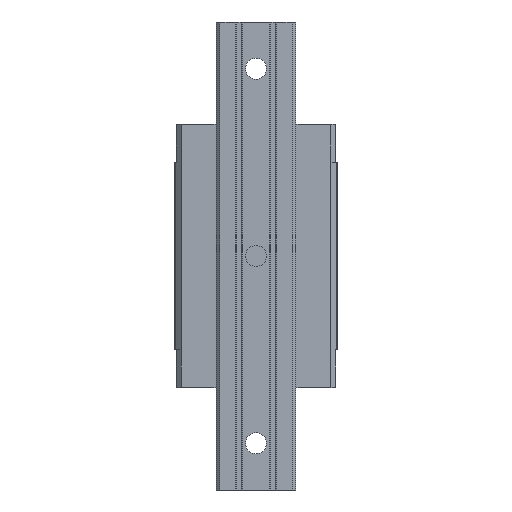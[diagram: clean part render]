
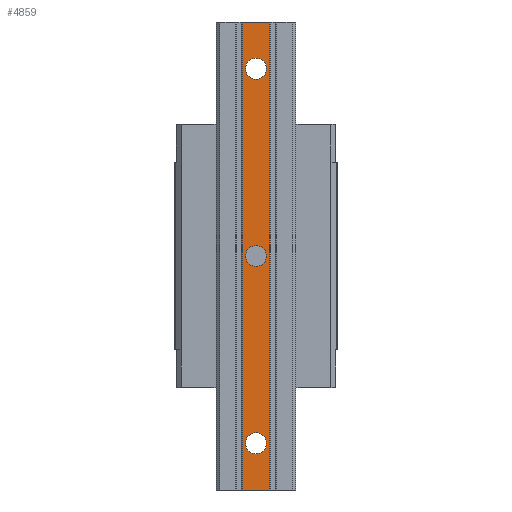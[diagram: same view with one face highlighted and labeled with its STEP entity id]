
A CAD part, front view. The second image highlights one B-rep face of the part: STEP entity #4859.
In plain terms, the highlighted planar face has unit normal (0, -1, 0).
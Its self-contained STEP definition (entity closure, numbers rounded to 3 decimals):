
#3869=DIRECTION('',(-1.,0.,0.));
#3870=VECTOR('',#3869,11.7);
#3871=CARTESIAN_POINT('',(5.85,-29.,-100.));
#3872=LINE('',#3871,#3870);
#3873=DIRECTION('',(0.,0.,-1.));
#3874=VECTOR('',#3873,200.);
#3875=CARTESIAN_POINT('',(5.85,-29.,100.));
#3876=LINE('',#3875,#3874);
#3877=CARTESIAN_POINT('',(0.,-29.,0.));
#3878=DIRECTION('',(0.,-1.,0.));
#3879=DIRECTION('',(1.,0.,0.));
#3880=AXIS2_PLACEMENT_3D('',#3877,#3878,#3879);
#3882=CARTESIAN_POINT('',(0.,-29.,0.));
#3883=DIRECTION('',(0.,-1.,0.));
#3884=DIRECTION('',(-1.,0.,0.));
#3885=AXIS2_PLACEMENT_3D('',#3882,#3883,#3884);
#3887=CARTESIAN_POINT('',(0.,-29.,80.));
#3888=DIRECTION('',(0.,-1.,0.));
#3889=DIRECTION('',(1.,0.,0.));
#3890=AXIS2_PLACEMENT_3D('',#3887,#3888,#3889);
#3892=CARTESIAN_POINT('',(0.,-29.,80.));
#3893=DIRECTION('',(0.,-1.,0.));
#3894=DIRECTION('',(-1.,0.,0.));
#3895=AXIS2_PLACEMENT_3D('',#3892,#3893,#3894);
#3897=CARTESIAN_POINT('',(0.,-29.,-80.));
#3898=DIRECTION('',(0.,-1.,0.));
#3899=DIRECTION('',(1.,0.,0.));
#3900=AXIS2_PLACEMENT_3D('',#3897,#3898,#3899);
#3902=CARTESIAN_POINT('',(0.,-29.,-80.));
#3903=DIRECTION('',(0.,-1.,0.));
#3904=DIRECTION('',(-1.,0.,0.));
#3905=AXIS2_PLACEMENT_3D('',#3902,#3903,#3904);
#3907=DIRECTION('',(0.,0.,-1.));
#3908=VECTOR('',#3907,200.);
#3909=CARTESIAN_POINT('',(-5.85,-29.,100.));
#3910=LINE('',#3909,#3908);
#4117=DIRECTION('',(-1.,0.,0.));
#4118=VECTOR('',#4117,11.7);
#4119=CARTESIAN_POINT('',(5.85,-29.,100.));
#4120=LINE('',#4119,#4118);
#4363=CARTESIAN_POINT('',(-5.85,-29.,-100.));
#4364=VERTEX_POINT('',#4363);
#4365=CARTESIAN_POINT('',(5.85,-29.,-100.));
#4366=VERTEX_POINT('',#4365);
#4427=CARTESIAN_POINT('',(5.85,-29.,100.));
#4428=VERTEX_POINT('',#4427);
#4429=CARTESIAN_POINT('',(-5.85,-29.,100.));
#4430=VERTEX_POINT('',#4429);
#4431=CARTESIAN_POINT('',(4.5,-29.,0.));
#4432=CARTESIAN_POINT('',(-4.5,-29.,0.));
#4433=VERTEX_POINT('',#4431);
#4434=VERTEX_POINT('',#4432);
#4435=CARTESIAN_POINT('',(4.5,-29.,80.));
#4436=CARTESIAN_POINT('',(-4.5,-29.,80.));
#4437=VERTEX_POINT('',#4435);
#4438=VERTEX_POINT('',#4436);
#4439=CARTESIAN_POINT('',(4.5,-29.,-80.));
#4440=CARTESIAN_POINT('',(-4.5,-29.,-80.));
#4441=VERTEX_POINT('',#4439);
#4442=VERTEX_POINT('',#4440);
#4828=CARTESIAN_POINT('',(-5.85,-29.,-100.));
#4829=DIRECTION('',(0.,-1.,0.));
#4830=DIRECTION('',(1.,0.,0.));
#4831=AXIS2_PLACEMENT_3D('',#4828,#4829,#4830);
#4832=PLANE('',#4831);
#4833=ORIENTED_EDGE('',*,*,#4568,.T.);
#4835=ORIENTED_EDGE('',*,*,#4834,.F.);
#4837=ORIENTED_EDGE('',*,*,#4836,.F.);
#4838=ORIENTED_EDGE('',*,*,#4820,.T.);
#4839=EDGE_LOOP('',(#4833,#4835,#4837,#4838));
#4840=FACE_OUTER_BOUND('',#4839,.F.);
#4842=ORIENTED_EDGE('',*,*,#4841,.T.);
#4844=ORIENTED_EDGE('',*,*,#4843,.T.);
#4845=EDGE_LOOP('',(#4842,#4844));
#4846=FACE_BOUND('',#4845,.F.);
#4848=ORIENTED_EDGE('',*,*,#4847,.T.);
#4850=ORIENTED_EDGE('',*,*,#4849,.T.);
#4851=EDGE_LOOP('',(#4848,#4850));
#4852=FACE_BOUND('',#4851,.F.);
#4854=ORIENTED_EDGE('',*,*,#4853,.T.);
#4856=ORIENTED_EDGE('',*,*,#4855,.T.);
#4857=EDGE_LOOP('',(#4854,#4856));
#4858=FACE_BOUND('',#4857,.F.);
#4859=ADVANCED_FACE('',(#4840,#4846,#4852,#4858),#4832,.T.);
#3881=CIRCLE('',#3880,4.5);
#3886=CIRCLE('',#3885,4.5);
#3891=CIRCLE('',#3890,4.5);
#3896=CIRCLE('',#3895,4.5);
#3901=CIRCLE('',#3900,4.5);
#3906=CIRCLE('',#3905,4.5);
#4568=EDGE_CURVE('',#4366,#4364,#3872,.T.);
#4820=EDGE_CURVE('',#4428,#4366,#3876,.T.);
#4834=EDGE_CURVE('',#4430,#4364,#3910,.T.);
#4836=EDGE_CURVE('',#4428,#4430,#4120,.T.);
#4841=EDGE_CURVE('',#4433,#4434,#3881,.T.);
#4843=EDGE_CURVE('',#4434,#4433,#3886,.T.);
#4847=EDGE_CURVE('',#4437,#4438,#3891,.T.);
#4849=EDGE_CURVE('',#4438,#4437,#3896,.T.);
#4853=EDGE_CURVE('',#4441,#4442,#3901,.T.);
#4855=EDGE_CURVE('',#4442,#4441,#3906,.T.);
